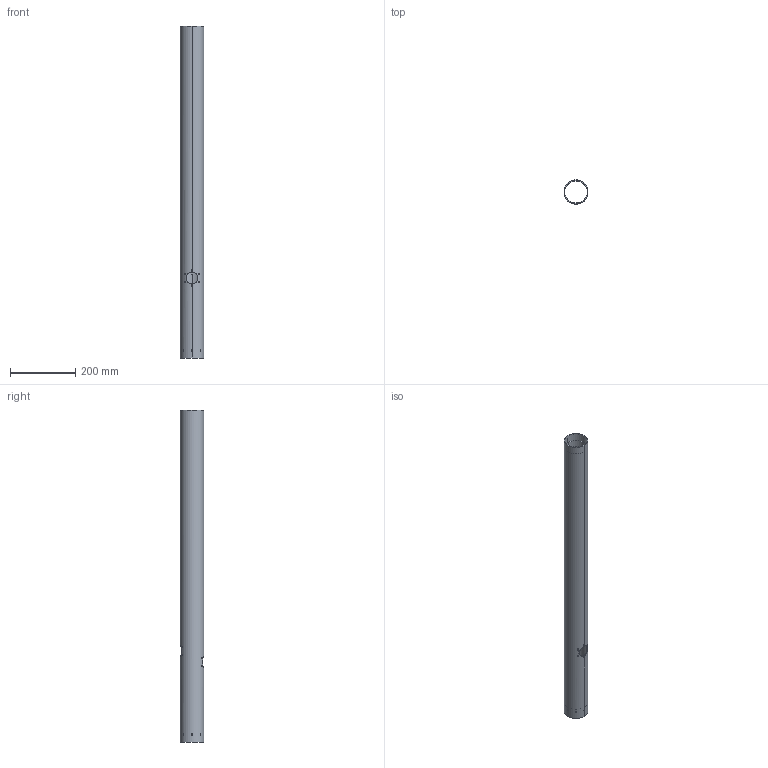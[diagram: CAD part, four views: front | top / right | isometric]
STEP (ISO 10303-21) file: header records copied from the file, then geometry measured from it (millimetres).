
FILE_DESCRIPTION(/* description */ ('(C) Elphel, Inc. 2011. Licensed under CERN OHL v.1.1 or later, see http://ohwr.org/cernohl'),/* implementation_level */ '2;1');
FILE_NAME(/* name */ '0353-10-231',/* time_stamp */ '2011-11-09T13:32:36-07:00',/* author */ (''),/* organization */ ('Elphel, Inc'),/* preprocessor_version */ 'ST-DEVELOPER v12',/* originating_system */ 'VariCAD 2010-3.03; kernel version (20100102)',/* authorisation */ '');
FILE_SCHEMA (('AUTOMOTIVE_DESIGN'));
Length unit declared in the file: millimetre
Products named in the file (1): Part
Bounding box: 73.03 x 73.03 x 1020 mm (x, y, z)
Volume: 468403.2 mm3; surface area: 451965.1 mm2
Topology: 1 solids, 1 shells, 104 faces, 324 edges, 208 vertices
Faces by surface type: cylinder 76, cone 24, plane 4
Entity records: 4823 total; most frequent: CARTESIAN_POINT 1998, ORIENTED_EDGE 648, DIRECTION 504, EDGE_CURVE 324, VERTEX_POINT 208, AXIS2_PLACEMENT_3D 194, EDGE_LOOP 136, B_SPLINE_CURVE_WITH_KNOTS 120
